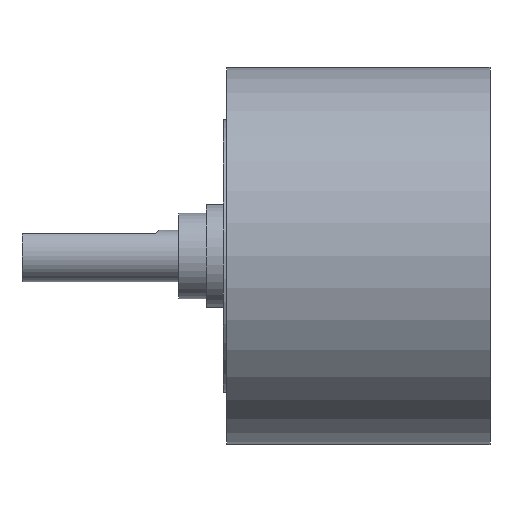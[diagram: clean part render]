
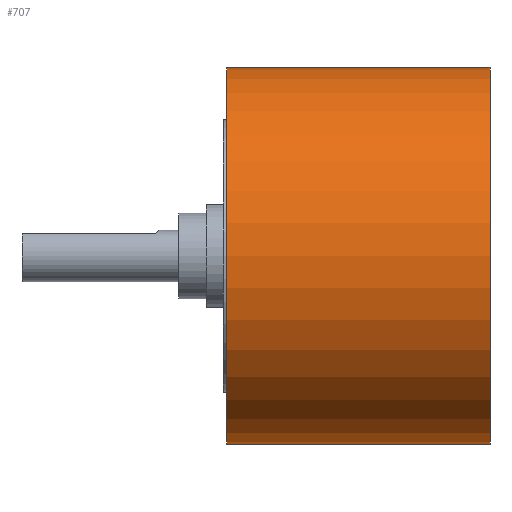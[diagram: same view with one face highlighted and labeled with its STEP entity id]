
A CAD part, top view. The second image highlights one B-rep face of the part: STEP entity #707.
In plain terms, the highlighted cylindrical face has radius 11 mm (diameter 22 mm), a partial arc.
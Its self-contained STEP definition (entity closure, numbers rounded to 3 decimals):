
#6=CARTESIAN_POINT('',(0.2,0.,0.));
#7=DIRECTION('',(1.,0.,0.));
#8=DIRECTION('',(0.,1.,0.));
#9=AXIS2_PLACEMENT_3D('',#6,#7,#8);
#221=DIRECTION('',(-1.,0.,0.));
#222=VECTOR('',#221,15.35);
#223=CARTESIAN_POINT('',(15.55,11.,0.));
#224=LINE('',#223,#222);
#225=DIRECTION('',(-1.,0.,0.));
#226=VECTOR('',#225,15.35);
#227=CARTESIAN_POINT('',(15.55,-11.,0.));
#228=LINE('',#227,#226);
#234=CARTESIAN_POINT('',(15.55,0.,0.));
#235=DIRECTION('',(1.,0.,0.));
#236=DIRECTION('',(0.,1.,0.));
#237=AXIS2_PLACEMENT_3D('',#234,#235,#236);
#275=CARTESIAN_POINT('',(15.55,11.,0.));
#276=CARTESIAN_POINT('',(0.2,11.,0.));
#277=VERTEX_POINT('',#275);
#278=VERTEX_POINT('',#276);
#291=CARTESIAN_POINT('',(15.55,-11.,0.));
#292=CARTESIAN_POINT('',(0.2,-11.,0.));
#293=VERTEX_POINT('',#291);
#294=VERTEX_POINT('',#292);
#695=CARTESIAN_POINT('',(-11.75,0.,0.));
#696=DIRECTION('',(1.,0.,0.));
#697=DIRECTION('',(0.,-1.,0.));
#698=AXIS2_PLACEMENT_3D('',#695,#696,#697);
#699=CYLINDRICAL_SURFACE('',#698,11.);
#700=ORIENTED_EDGE('',*,*,#685,.F.);
#702=ORIENTED_EDGE('',*,*,#701,.T.);
#703=ORIENTED_EDGE('',*,*,#688,.T.);
#704=ORIENTED_EDGE('',*,*,#349,.F.);
#705=EDGE_LOOP('',(#700,#702,#703,#704));
#706=FACE_OUTER_BOUND('',#705,.F.);
#707=ADVANCED_FACE('',(#706),#699,.T.);
#10=CIRCLE('',#9,11.);
#238=CIRCLE('',#237,11.);
#349=EDGE_CURVE('',#278,#294,#10,.T.);
#685=EDGE_CURVE('',#277,#278,#224,.T.);
#688=EDGE_CURVE('',#293,#294,#228,.T.);
#701=EDGE_CURVE('',#277,#293,#238,.T.);
